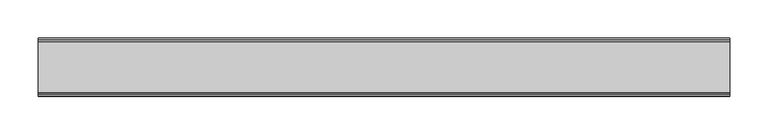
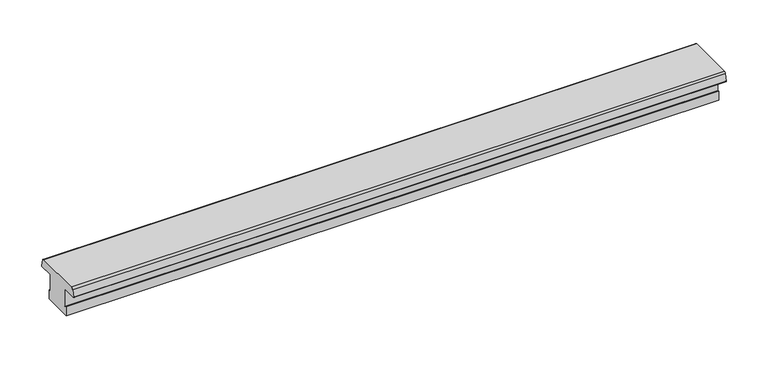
"""IFC4 building model written with IfcOpenShell, lengths in millimetres: proxy geometry, Weiku - Montante - Divisor 02.2.01.040 : Weiku - Montante - Divisor 02.2.01.040."""

import ifcopenshell
import ifcopenshell.guid

model = None  # the IFC model being written
_history = None  # IfcOwnerHistory: only IFC2X3 demands one
_inside = {}  # id of a spatial element -> (the spatial element, [elements in it])
_under = {}  # id of a project, library or spatial element -> (it, [spatial elements below it])
_declared = {}  # id of a project -> (the project, [libraries it declares])
_typed = {}  # id of a type object -> (the type object, [elements of that type])
_made_of = {}  # id of a material, layer set ... -> (it, [elements and type objects made of it])


def new_model(schema):
    """Start an empty IFC model of exactly this schema.

    Asked for "IFC4X3", IfcOpenShell would pick the latest addendum, in which some entities
    have other attributes; the version numbers below select the first issue.
    IFC2X3 requires an IfcOwnerHistory on every rooted entity: one is made here for all.
    """
    global model, _history
    if schema == "IFC4X3":
        model = ifcopenshell.file(schema_version=(4, 3, 0, 0))
    else:
        model = ifcopenshell.file(schema=schema)
    _inside.clear()
    _under.clear()
    _declared.clear()
    _typed.clear()
    _made_of.clear()
    _history = None
    if model.schema == "IFC2X3":
        org = make("IfcOrganization", Name="unknown")
        user = make(
            "IfcPersonAndOrganization",
            ThePerson=make("IfcPerson", FamilyName="unknown"),
            TheOrganization=org,
        )
        app = make(
            "IfcApplication",
            ApplicationDeveloper=org,
            Version="unknown",
            ApplicationFullName="unknown",
            ApplicationIdentifier="unknown",
        )
        _history = make(
            "IfcOwnerHistory",
            OwningUser=user,
            OwningApplication=app,
            ChangeAction="ADDED",
            CreationDate=0,
        )
    return model


def make(cls, **values):
    """One entity of the class cls with the attributes given. An attribute that is None is left unset."""
    return model.create_entity(
        cls, **{name: value for name, value in values.items() if value is not None}
    )


def rooted(cls, **values):
    """An entity with a GlobalId (a new one), such as an element, a storey or a relation."""
    return make(cls, GlobalId=ifcopenshell.guid.new(), OwnerHistory=_history, **values)


def si_unit(unit_type, name, prefix=None):
    """IfcSIUnit, for example si_unit("LENGTHUNIT", "METRE", prefix="MILLI")."""
    return make("IfcSIUnit", UnitType=unit_type, Prefix=prefix, Name=name)


def assignment(units):
    """IfcUnitAssignment: the units of a project."""
    return None if units is None else make("IfcUnitAssignment", Units=units)


def point(xyz):
    """IfcCartesianPoint."""
    return None if xyz is None else make("IfcCartesianPoint", Coordinates=xyz)


def direction(xyz):
    """IfcDirection."""
    return None if xyz is None else make("IfcDirection", DirectionRatios=xyz)


def frame(location, z_axis=None, x_axis=None):
    """IfcAxis2Placement3D, a coordinate frame: its origin and axes. An axis left out is left unset."""
    return make(
        "IfcAxis2Placement3D",
        Location=point(location),
        Axis=direction(z_axis),
        RefDirection=direction(x_axis),
    )


def frame_2d(location, x_axis=None):
    """IfcAxis2Placement2D, a coordinate frame in the plane: its origin and x axis."""
    return make(
        "IfcAxis2Placement2D", Location=point(location), RefDirection=direction(x_axis)
    )


def origin():
    """The frame at (0, 0, 0) with its axes left unset."""
    return frame((0.0, 0.0, 0.0))


def place(relative_to, where):
    """IfcLocalPlacement: puts the frame where relative to a parent placement (None: the world)."""
    return make(
        "IfcLocalPlacement", PlacementRelTo=relative_to, RelativePlacement=where
    )


def context(
    kind, dimensions, precision=None, world=None, true_north=None, identifier=None
):
    """IfcGeometricRepresentationContext, for example the 3D "Model" context."""
    return make(
        "IfcGeometricRepresentationContext",
        ContextIdentifier=identifier,
        ContextType=kind,
        CoordinateSpaceDimension=dimensions,
        Precision=precision,
        WorldCoordinateSystem=world,
        TrueNorth=true_north,
    )


def project(units=None, contexts=None):
    """IfcProject with its units and contexts."""
    return rooted(
        "IfcProject",
        Name="project",
        RepresentationContexts=contexts,
        UnitsInContext=assignment(units),
    )


def spatial(cls, under=None, at=None, **own):
    """A site, building, storey or space (cls), placed at a placement, below another one or the project."""
    s = rooted(cls, ObjectPlacement=at, **own)
    if under is not None:
        _under.setdefault(under.id(), (under, []))[1].append(s)
    return s


def polyline(points):
    """IfcPolyline through the points."""
    return make("IfcPolyline", Points=[point(p) for p in points])


def circle_curve(where, radius):
    """IfcCircle in the frame where."""
    return make("IfcCircle", Position=where, Radius=radius)


def trimmed(basis, trim1, trim2, sense, master):
    """IfcTrimmedCurve: the piece of a basis curve between two trims."""
    return make(
        "IfcTrimmedCurve",
        BasisCurve=basis,
        Trim1=trim1,
        Trim2=trim2,
        SenseAgreement=sense,
        MasterRepresentation=master,
    )


def segment(curve, same_sense, transition):
    """IfcCompositeCurveSegment."""
    return make(
        "IfcCompositeCurveSegment",
        Transition=transition,
        SameSense=same_sense,
        ParentCurve=curve,
    )


def composite_curve(segments, self_intersect=None):
    """IfcCompositeCurve: segments joined end to end."""
    return make("IfcCompositeCurve", Segments=segments, SelfIntersect=self_intersect)


def outline(outer, holes=None, kind="AREA"):
    """IfcArbitraryClosedProfileDef: a profile drawn as a closed curve; with holes, ...WithVoids."""
    if holes is None:
        return make("IfcArbitraryClosedProfileDef", ProfileType=kind, OuterCurve=outer)
    return make(
        "IfcArbitraryProfileDefWithVoids",
        ProfileType=kind,
        OuterCurve=outer,
        InnerCurves=holes,
    )


def extrude(swept, where, along, depth):
    """IfcExtrudedAreaSolid: the profile swept, set in the frame where, extruded along a direction by depth."""
    return make(
        "IfcExtrudedAreaSolid",
        SweptArea=swept,
        Position=where,
        ExtrudedDirection=direction(along),
        Depth=depth,
    )


def shape(context_of_items, identifier, shape_type, items):
    """IfcShapeRepresentation: the items that make up one representation, for example the "Body"."""
    return make(
        "IfcShapeRepresentation",
        ContextOfItems=context_of_items,
        RepresentationIdentifier=identifier,
        RepresentationType=shape_type,
        Items=items,
    )


def source(mapping_origin, context_of_items, identifier, shape_type, items):
    """IfcRepresentationMap: a shape defined once, which mapped items show again and again."""
    return make(
        "IfcRepresentationMap",
        MappingOrigin=mapping_origin,
        MappedRepresentation=shape(context_of_items, identifier, shape_type, items),
    )


def transform(
    local_origin,
    x_axis=None,
    y_axis=None,
    z_axis=None,
    scale=None,
    scale2=None,
    scale3=None,
    uniform=True,
):
    """IfcCartesianTransformationOperator3D, or its non-uniform kind. x_axis, y_axis, z_axis: its Axis1, 2, 3."""
    if uniform:
        return make(
            "IfcCartesianTransformationOperator3D",
            Axis1=direction(x_axis),
            Axis2=direction(y_axis),
            LocalOrigin=point(local_origin),
            Scale=scale,
            Axis3=direction(z_axis),
        )
    return make(
        "IfcCartesianTransformationOperator3DnonUniform",
        Axis1=direction(x_axis),
        Axis2=direction(y_axis),
        LocalOrigin=point(local_origin),
        Scale=scale,
        Axis3=direction(z_axis),
        Scale2=scale2,
        Scale3=scale3,
    )


def mapped(mapping_source, mapping_target):
    """IfcMappedItem: shows the shape of a source again, moved by a transform."""
    return make(
        "IfcMappedItem", MappingSource=mapping_source, MappingTarget=mapping_target
    )


def made_of(thing, what):
    """Note that an element or type object is made of a material, layer set ...; save() writes the relation."""
    if what is not None:
        _made_of.setdefault(what.id(), (what, []))[1].append(thing)
    return thing


def element(
    cls,
    number,
    at=None,
    inside=None,
    cuts=None,
    type_object=None,
    material=None,
    context=None,
    identifier="Body",
    shape_type=None,
    held_by="IfcProductDefinitionShape",
    body=None,
    shapes=None,
    **own,
):
    """One element of the class cls, such as IfcWall. Its Tag is "e" and its number.

    at: its placement. inside: the storey or other place that contains it. cuts: it is an
    opening in that element (IfcRelVoidsElement). A single representation is given by context,
    identifier, shape_type and body (its items); several are given by shapes. held_by: the class
    of the entity that holds the representations. save() writes the other relations.
    """
    e = rooted(cls, Tag="e%d" % number, ObjectPlacement=at, **own)
    if body is not None:
        shapes = [shape(context, identifier, shape_type, body)]
    if shapes is not None:
        e.Representation = make(held_by, Representations=shapes)
    if inside is not None:
        _inside.setdefault(inside.id(), (inside, []))[1].append(e)
    if cuts is not None:
        rooted(
            "IfcRelVoidsElement", RelatingBuildingElement=cuts, RelatedOpeningElement=e
        )
    if type_object is not None:
        _typed.setdefault(type_object.id(), (type_object, []))[1].append(e)
    return made_of(e, material)


def aggregate(whole, parts):
    """IfcRelAggregates: a whole, such as a stair, and the parts it consists of."""
    return rooted("IfcRelAggregates", RelatingObject=whole, RelatedObjects=parts)


def save(model, path):
    """Write the relations noted so far, then the file.

    IfcRelAggregates (storeys below a building ...), IfcRelContainedInSpatialStructure (elements
    in a storey), IfcRelDefinesByType, IfcRelAssociatesMaterial and IfcRelDeclares: one each for
    every whole, place, type object, material and project.
    """
    for whole, parts in _under.values():
        aggregate(whole, parts)
    for where, things in _inside.values():
        rooted(
            "IfcRelContainedInSpatialStructure",
            RelatedElements=things,
            RelatingStructure=where,
        )
    for kind, things in _typed.values():
        rooted("IfcRelDefinesByType", RelatedObjects=things, RelatingType=kind)
    for what, things in _made_of.values():
        rooted("IfcRelAssociatesMaterial", RelatedObjects=things, RelatingMaterial=what)
    for by, libraries in _declared.values():
        rooted("IfcRelDeclares", RelatingContext=by, RelatedDefinitions=libraries)
    model.write(path)


def generic_models_0ea1fd46(model_context):
    return source(origin(), model_context, "Body", "SweptSolid", [
        extrude(outline(composite_curve([segment(polyline([(-33.0007245, 50.0), (33.0007245, 50.0)]), True, "CONTINUOUS"), segment(trimmed(circle_curve(frame_2d((33.0007245, 47.0)), 3.0), [point((33.0007245, 50.0))], [point((35.898502, 47.7764571))], False, "CARTESIAN"), True, "CONTINUOUS"), segment(polyline([(35.898502, 47.7764571), (38.4496907, 38.2552914)]), True, "CONTINUOUS"), segment(trimmed(circle_curve(frame_2d((37.8701352, 38.1)), 0.6), [point((38.4496907, 38.2552914))], [point((37.8701352, 37.5))], False, "CARTESIAN"), True, "CONTINUOUS"), segment(polyline([(37.8701352, 37.5), (17.5004577, 37.5), (17.5004577, 12.168694), (20.5, 12.972419), (20.5, 0.0), (-20.5, 0.0), (-20.5, 12.972419), (-17.5004577, 12.168694), (-17.5004577, 37.5), (-37.8701352, 37.5)]), True, "CONTINUOUS"), segment(trimmed(circle_curve(frame_2d((-37.8701352, 38.1)), 0.6), [point((-37.8701352, 37.5))], [point((-38.4496907, 38.2552914))], False, "CARTESIAN"), True, "CONTINUOUS"), segment(polyline([(-38.4496907, 38.2552914), (-35.898502, 47.7764571)]), True, "CONTINUOUS"), segment(trimmed(circle_curve(frame_2d((-33.0007245, 47.0)), 3.0), [point((-35.898502, 47.7764571))], [point((-33.0007245, 50.0))], False, "CARTESIAN"), True, "CONTINUOUS")], self_intersect=False)), frame((-453.0, 0.0, 0.0), z_axis=(1.0, 0.0, 0.0), x_axis=(0.0, 1.0, 0.0)), (0.0, 0.0, 1.0), 906.0),
    ])


if __name__ == "__main__":
    model = new_model("IFC4")
    model_context = context("Model", 3, world=origin())
    ifc_project = project(units=[si_unit("LENGTHUNIT", "METRE", prefix="MILLI")], contexts=[model_context])
    site = spatial("IfcSite", under=ifc_project)
    building = spatial("IfcBuilding", under=site)
    placement = place(None, origin())
    generic_models_shape = generic_models_0ea1fd46(model_context)
    element("IfcBuildingElementProxy", 1, Name="Weiku - Montante - Divisor 02.2.01.040 : Weiku - Montante - Divisor 02.2.01.040", ObjectType="Weiku - Montante - Divisor 02.2.01.040 : Weiku - Montante - Divisor 02.2.01.040", at=placement, inside=building, context=model_context, shape_type="MappedRepresentation", body=[
        mapped(generic_models_shape, transform((0.0, 0.0, 0.0), x_axis=(1.0, 0.0, 0.0), y_axis=(0.0, 1.0, 0.0), z_axis=(0.0, 0.0, 1.0))),
    ])
    save(model, "model.ifc")
